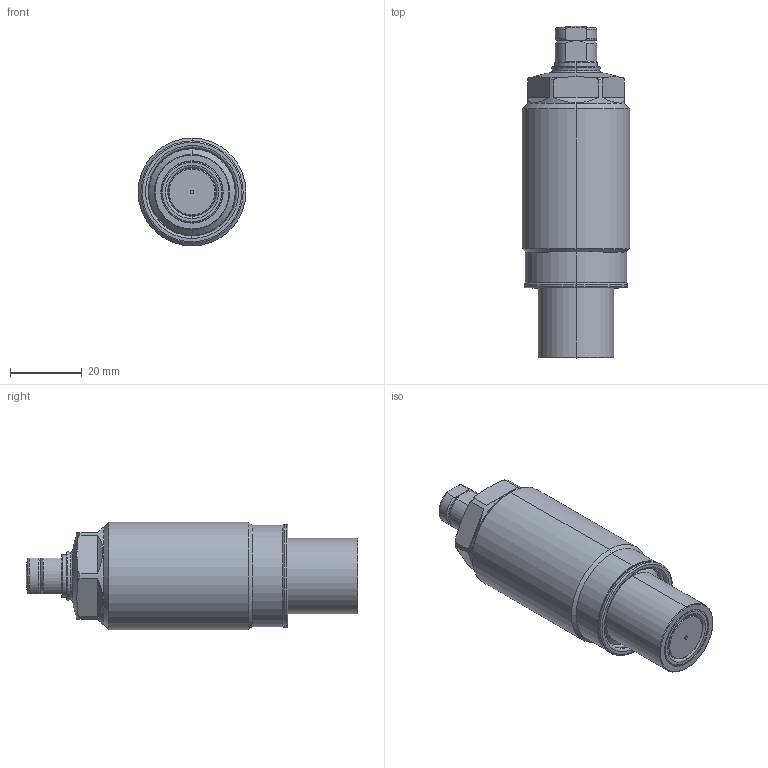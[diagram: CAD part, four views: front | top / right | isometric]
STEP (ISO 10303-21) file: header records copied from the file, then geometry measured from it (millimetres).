
FILE_DESCRIPTION(/* description */ (''),/* implementation_level */ '2;1');
FILE_NAME(/* name */ 'TSC30-Q.stp',/* time_stamp */ '2026-02-04T13:47:36+08:00',/* author */ (''),/* organization */ (''),/* preprocessor_version */ 'ST-DEVELOPER v16.7',/* originating_system */ 'SIEMENS PLM Software NX 12.0',/* authorisation */ '');
FILE_SCHEMA (('AUTOMOTIVE_DESIGN { 1 0 10303 214 3 1 1 1 }'));
Length unit declared in the file: millimetre
Products named in the file (7): XLD-M8_contactbolt; XLD-M8_Oring; TSC30-Q-01; AS568-022(90); TSC30-Q-02; TSC30-Q-03; LD0303-Q_step
Assembly tree (6 placements, depth 3):
  LD0303-Q_step
    TSC30-Q-03
      XLD-M8_Oring
      XLD-M8_contactbolt
    TSC30-Q-02
    AS568-022(90)
    TSC30-Q-01
Bounding box: 30 x 92.5 x 30 mm (x, y, z)
Volume: 46952.8 mm3; surface area: 11771.6 mm2
Topology: 5 solids, 5 shells, 178 faces, 388 edges, 232 vertices
Faces by surface type: torus 66, cylinder 45, plane 39, cone 26, sphere 2
Entity records: 5359 total; most frequent: CARTESIAN_POINT 1189, DIRECTION 961, ORIENTED_EDGE 776, AXIS2_PLACEMENT_3D 432, EDGE_CURVE 388, CIRCLE 247, VERTEX_POINT 232, EDGE_LOOP 194
